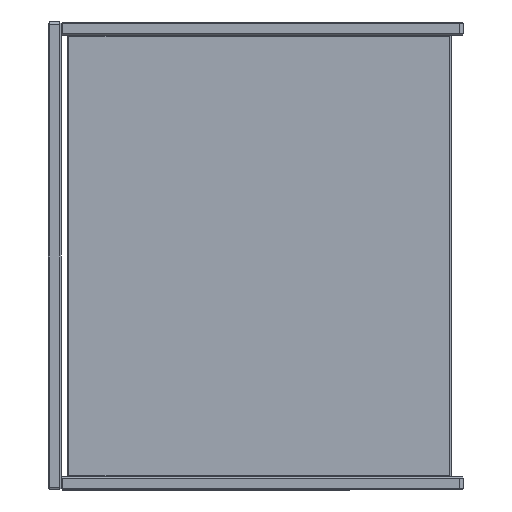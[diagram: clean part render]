
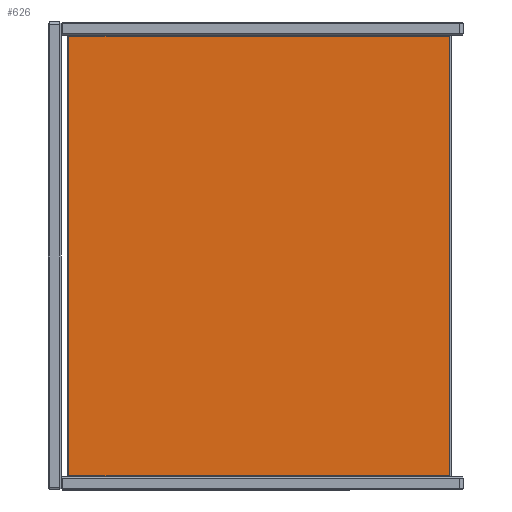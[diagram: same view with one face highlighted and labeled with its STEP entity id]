
A CAD part, front view. The second image highlights one B-rep face of the part: STEP entity #626.
In plain terms, the highlighted planar face has unit normal (0, -1, 0).
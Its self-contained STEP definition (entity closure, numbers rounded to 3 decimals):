
#393=CARTESIAN_POINT('',(6.,80.,-339.));
#394=VERTEX_POINT('',#393);
#401=CARTESIAN_POINT('',(6.,80.,-1.));
#402=VERTEX_POINT('',#401);
#403=CARTESIAN_POINT('',(6.,80.,-339.0));
#404=DIRECTION('',(0.0,0.0,1.0));
#405=VECTOR('',#404,338.0);
#406=LINE('',#403,#405);
#407=EDGE_CURVE('',#394,#402,#406,.T.);
#430=CARTESIAN_POINT('',(299.,80.,-1.));
#431=VERTEX_POINT('',#430);
#432=CARTESIAN_POINT('',(6.,80.,-1.));
#433=DIRECTION('',(1.0,0.0,0.0));
#434=VECTOR('',#433,293.);
#435=LINE('',#432,#434);
#436=EDGE_CURVE('',#402,#431,#435,.T.);
#475=CARTESIAN_POINT('',(299.,80.,-339.));
#476=VERTEX_POINT('',#475);
#477=CARTESIAN_POINT('',(299.,80.,-1.));
#478=DIRECTION('',(0.0,0.0,-1.0));
#479=VECTOR('',#478,338.);
#480=LINE('',#477,#479);
#481=EDGE_CURVE('',#431,#476,#480,.T.);
#524=CARTESIAN_POINT('',(299.,80.,-339.));
#525=DIRECTION('',(-1.0,0.0,0.0));
#526=VECTOR('',#525,293.0);
#527=LINE('',#524,#526);
#528=EDGE_CURVE('',#476,#394,#527,.T.);
#615=CARTESIAN_POINT('',(152.5,80.0,-170.));
#616=DIRECTION('',(0.0,-1.0,0.0));
#617=DIRECTION('',(0.0,0.0,-1.0));
#618=AXIS2_PLACEMENT_3D('',#615,#616,#617);
#619=PLANE('',#618);
#620=ORIENTED_EDGE('',*,*,#407,.F.);
#621=ORIENTED_EDGE('',*,*,#528,.F.);
#622=ORIENTED_EDGE('',*,*,#481,.F.);
#623=ORIENTED_EDGE('',*,*,#436,.F.);
#624=EDGE_LOOP('',(#620,#621,#622,#623));
#625=FACE_OUTER_BOUND('',#624,.T.);
#626=ADVANCED_FACE('',(#625),#619,.T.);
